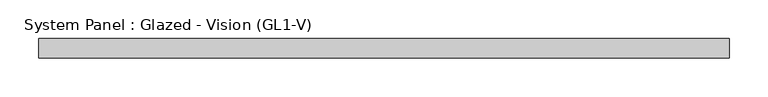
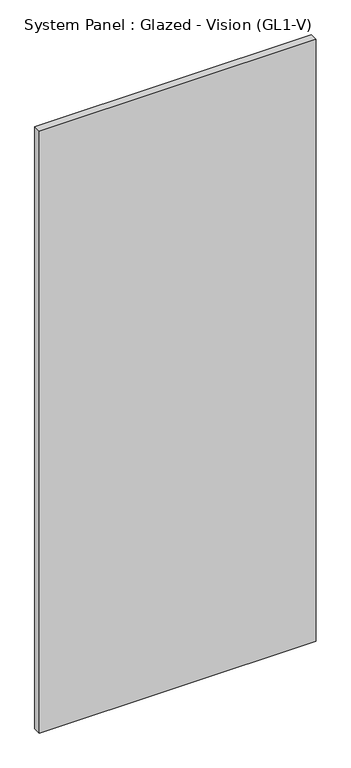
"""IFC4 building model written with IfcOpenShell, lengths in millimetres: plate geometry, System Panel : Glazed - Vision (GL1-V)."""

from ifc_helpers import new_model, si_unit, origin, origin_with_axes, place, context, project, spatial, polyline, outline, extrude, source, transform, mapped, element, save


def system_panel_glazed_vision_gl1_v_e0dfaaf8(model_context):
    return source(origin(), model_context, "Body", "SweptSolid", [
        extrude(outline(polyline([(447.675, 0.0), (-447.675, 0.0), (-447.675, 25.4), (447.675, 25.4), (447.675, 0.0)])), origin_with_axes(), (0.0, 0.0, 1.0), 2057.4),
    ])


if __name__ == "__main__":
    model = new_model("IFC4")
    model_context = context("Model", 3, world=origin())
    ifc_project = project(units=[si_unit("LENGTHUNIT", "METRE", prefix="MILLI")], contexts=[model_context])
    site = spatial("IfcSite", under=ifc_project)
    building = spatial("IfcBuilding", under=site)
    placement = place(None, origin())
    system_panel_glazed_vision_gl1_v_shape = system_panel_glazed_vision_gl1_v_e0dfaaf8(model_context)
    element("IfcPlate", 1, ObjectType="System Panel : Glazed - Vision (GL1-V)", at=placement, inside=building, context=model_context, shape_type="MappedRepresentation", body=[
        mapped(system_panel_glazed_vision_gl1_v_shape, transform((0.0, 0.0, 0.0), x_axis=(1.0, 0.0, 0.0), y_axis=(0.0, 1.0, 0.0), z_axis=(0.0, 0.0, 1.0))),
    ])
    save(model, "model.ifc")
